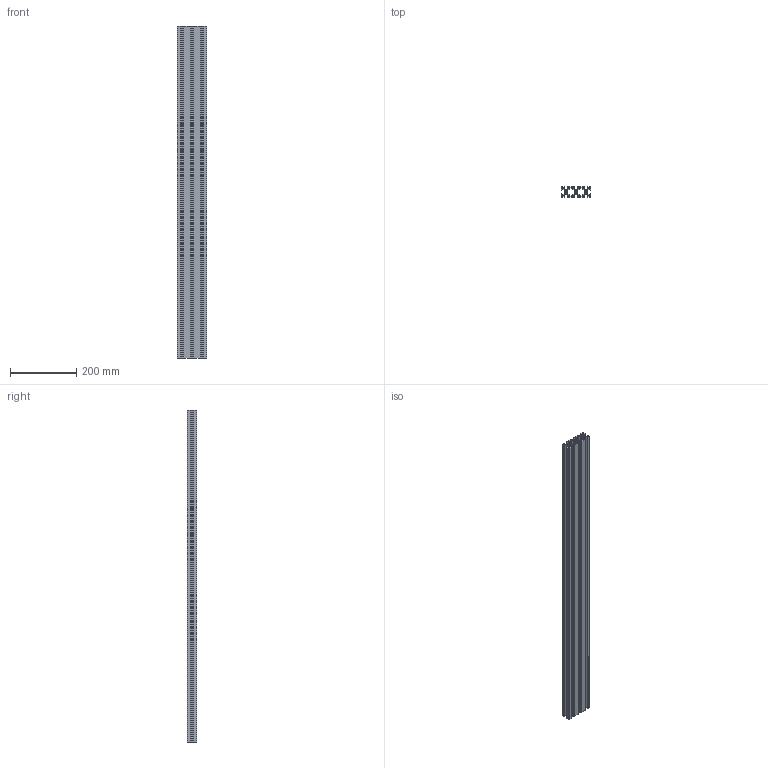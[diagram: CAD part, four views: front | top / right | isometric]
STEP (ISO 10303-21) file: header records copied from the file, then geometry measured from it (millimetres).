
FILE_DESCRIPTION (( 'STEP AP203' ), '1' );
FILE_NAME ('30õ90.STEP', '2016-11-27T11:57:18', ( '' ), ( '' ), 'SwSTEP 2.0', 'SolidWorks 2014', '' );
FILE_SCHEMA (( 'CONFIG_CONTROL_DESIGN' ));
Length unit declared in the file: millimetre
Products named in the file (2): 30õ90
Bounding box: 90 x 30 x 1000 mm (x, y, z)
Volume: 757206.5 mm3; surface area: 827432.6 mm2
Topology: 1 solids, 1 shells, 265 faces, 789 edges, 526 vertices
Faces by surface type: plane 230, cylinder 35
Entity records: 8964 total; most frequent: CARTESIAN_POINT 1582, ORIENTED_EDGE 1578, DIRECTION 1393, EDGE_CURVE 789, LINE 719, VECTOR 719, VERTEX_POINT 526, AXIS2_PLACEMENT_3D 337
